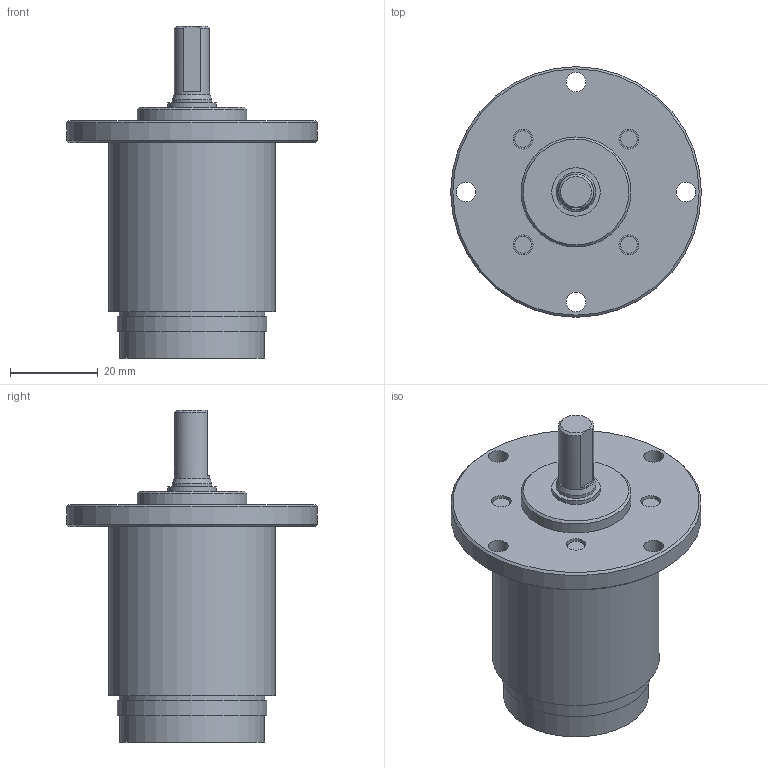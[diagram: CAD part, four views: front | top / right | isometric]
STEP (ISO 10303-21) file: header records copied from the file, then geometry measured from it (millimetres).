
FILE_DESCRIPTION(/* description */ (''),/* implementation_level */ '2;1');
FILE_NAME(/* name */ '38-1_5.stp',/* time_stamp */ '2016-09-15T17:41:50+02:00',/* author */ ('DR. FRITZ FAULHABER GmbH & Co. KG'),/* organization */ ('DR. FRITZ FAULHABER GmbH & Co. KG'),/* preprocessor_version */ 'ST-DEVELOPER v16',/* originating_system */ 'SIEMENS PLM Software NX 10.0',/* authorisation */ '');
FILE_SCHEMA (('AUTOMOTIVE_DESIGN { 1 0 10303 214 3 1 1 1 }'));
Length unit declared in the file: millimetre
Products named in the file (1): huge1AD871C9jgyu
Bounding box: 57 x 57 x 75.5 mm (x, y, z)
Volume: 67020.9 mm3; surface area: 12955.6 mm2
Topology: 1 solids, 1 shells, 54 faces, 99 edges, 67 vertices
Faces by surface type: cylinder 25, plane 24, cone 5
Full cylindrical faces by diameter (mm): 3.8 x4, 4.5 x8, 8 x1, 9 x1, 11 x1, 11.8 x1, 12 x1, 25 x1, 26.9 x1, 27.57 x1, 33 x1, 33.2 x1, 34 x1, 38 x1, 57 x1
Entity records: 1190 total; most frequent: DIRECTION 225, CARTESIAN_POINT 183, ORIENTED_EDGE 122, EDGE_LOOP 111, AXIS2_PLACEMENT_3D 111, FACE_BOUND 102, EDGE_CURVE 61, VERTEX_POINT 58
